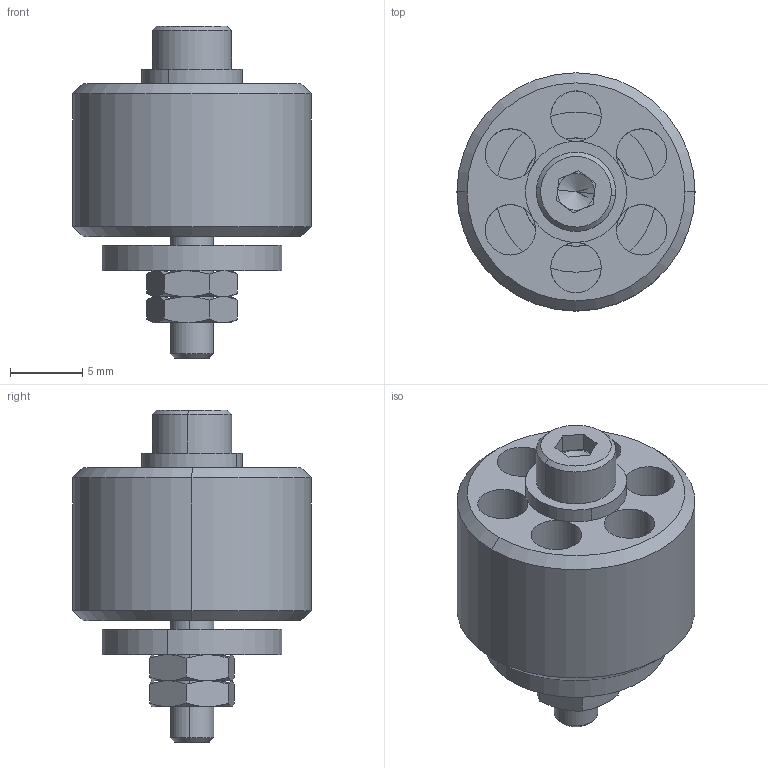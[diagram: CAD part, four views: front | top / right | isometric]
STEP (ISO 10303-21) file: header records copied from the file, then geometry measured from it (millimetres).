
FILE_DESCRIPTION (( 'STEP AP214' ), '1' );
FILE_NAME ('VSR38001.STEP', '2025-06-04T00:20:57', ( '' ), ( '' ), 'SwSTEP 2.0', 'SolidWorks 2023', '' );
FILE_SCHEMA (( 'AUTOMOTIVE_DESIGN' ));
Length unit declared in the file: millimetre
Products named in the file (1): VSR38001
Bounding box: 16.5 x 16.5 x 23 mm (x, y, z)
Surface area: 1935.2 mm2 (no closed solid volume)
Topology: 0 solids, 7 shells, 77 faces, 252 edges, 169 vertices
Faces by surface type: plane 31, cylinder 24, cone 22
Entity records: 2922 total; most frequent: CARTESIAN_POINT 735, DIRECTION 478, ORIENTED_EDGE 400, EDGE_CURVE 250, AXIS2_PLACEMENT_3D 192, VERTEX_POINT 169, CIRCLE 114, LINE 94
